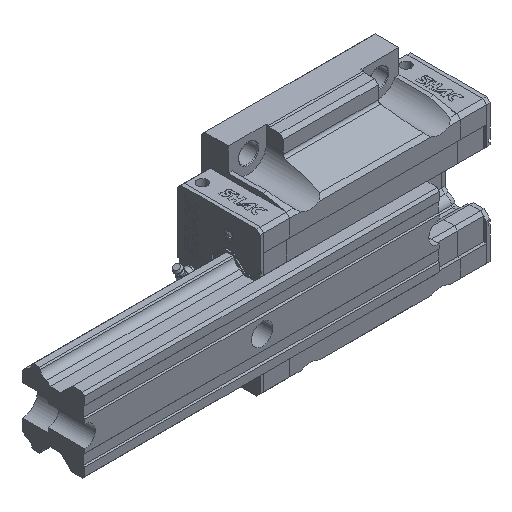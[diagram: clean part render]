
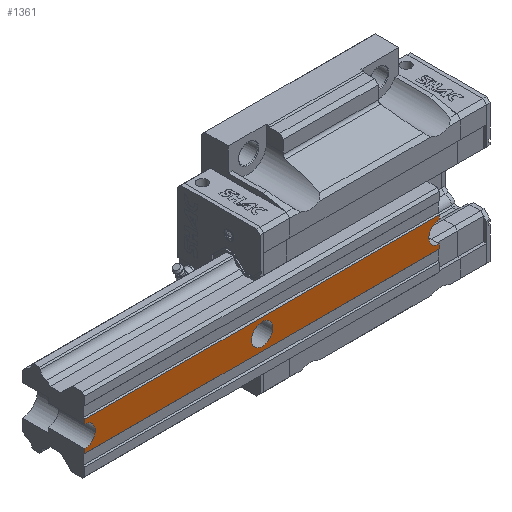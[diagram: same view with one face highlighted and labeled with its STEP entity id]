
A CAD part, isometric view. The second image highlights one B-rep face of the part: STEP entity #1361.
In plain terms, the highlighted planar face has unit normal (0, -1, 0).
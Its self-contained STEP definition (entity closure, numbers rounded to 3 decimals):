
#1361 = ADVANCED_FACE( '', ( #2830, #2831 ), #2832, .F. );
#2830 = FACE_BOUND( '', #4475, .T. );
#2831 = FACE_OUTER_BOUND( '', #4476, .T. );
#2832 = PLANE( '', #4477 );
#4475 = EDGE_LOOP( '', ( #8047 ) );
#4476 = EDGE_LOOP( '', ( #8048, #8049, #8050, #8051, #8052, #8053, #8054, #8055 ) );
#4477 = AXIS2_PLACEMENT_3D( '', #8056, #8057, #8058 );
#8047 = ORIENTED_EDGE( '', *, *, #11313, .F. );
#8048 = ORIENTED_EDGE( '', *, *, #10004, .F. );
#8049 = ORIENTED_EDGE( '', *, *, #11314, .F. );
#8050 = ORIENTED_EDGE( '', *, *, #10270, .F. );
#8051 = ORIENTED_EDGE( '', *, *, #11026, .F. );
#8052 = ORIENTED_EDGE( '', *, *, #10734, .T. );
#8053 = ORIENTED_EDGE( '', *, *, #11143, .T. );
#8054 = ORIENTED_EDGE( '', *, *, #10184, .F. );
#8055 = ORIENTED_EDGE( '', *, *, #11315, .T. );
#8056 = CARTESIAN_POINT( '', ( 150., 0., 29.5 ) );
#8057 = DIRECTION( '', ( 0., 1., 0. ) );
#8058 = DIRECTION( '', ( 0., 0., 1. ) );
#10004 = EDGE_CURVE( '', #11964, #11960, #11966, .T. );
#10184 = EDGE_CURVE( '', #12279, #12274, #12281, .T. );
#10270 = EDGE_CURVE( '', #12427, #12428, #12429, .T. );
#10734 = EDGE_CURVE( '', #13197, #13195, #13198, .T. );
#11026 = EDGE_CURVE( '', #13197, #12427, #13623, .T. );
#11143 = EDGE_CURVE( '', #13195, #12274, #13779, .T. );
#11313 = EDGE_CURVE( '', #14001, #14001, #14002, .T. );
#11314 = EDGE_CURVE( '', #12428, #11964, #14003, .T. );
#11315 = EDGE_CURVE( '', #12279, #11960, #14004, .T. );
#11960 = VERTEX_POINT( '', #14809 );
#11964 = VERTEX_POINT( '', #14815 );
#11966 = LINE( '', #14818, #14819 );
#12274 = VERTEX_POINT( '', #15252 );
#12279 = VERTEX_POINT( '', #15258 );
#12281 = CIRCLE( '', #15261, 9. );
#12427 = VERTEX_POINT( '', #15478 );
#12428 = VERTEX_POINT( '', #15479 );
#12429 = CIRCLE( '', #15480, 9. );
#13195 = VERTEX_POINT( '', #16607 );
#13197 = VERTEX_POINT( '', #16610 );
#13198 = LINE( '', #16611, #16612 );
#13623 = LINE( '', #17242, #17243 );
#13779 = LINE( '', #17474, #17475 );
#14001 = VERTEX_POINT( '', #17798 );
#14002 = CIRCLE( '', #17799, 9. );
#14003 = LINE( '', #17800, #17801 );
#14004 = LINE( '', #17802, #17803 );
#14809 = CARTESIAN_POINT( '', ( -150., 0., -12.5 ) );
#14815 = CARTESIAN_POINT( '', ( 150., 0., -12.5 ) );
#14818 = CARTESIAN_POINT( '', ( 150., 0., -12.5 ) );
#14819 = VECTOR( '', #18628, 1000. );
#15252 = CARTESIAN_POINT( '', ( -150., 0., 9. ) );
#15258 = CARTESIAN_POINT( '', ( -150., 0., -9. ) );
#15261 = AXIS2_PLACEMENT_3D( '', #18816, #18817, #18818 );
#15478 = CARTESIAN_POINT( '', ( 150., 0., 9. ) );
#15479 = CARTESIAN_POINT( '', ( 150., 0., -9. ) );
#15480 = AXIS2_PLACEMENT_3D( '', #18900, #18901, #18902 );
#16607 = CARTESIAN_POINT( '', ( -150., 0., 12.5 ) );
#16610 = CARTESIAN_POINT( '', ( 150., 0., 12.5 ) );
#16611 = CARTESIAN_POINT( '', ( 150., 0., 12.5 ) );
#16612 = VECTOR( '', #19404, 1000. );
#17242 = CARTESIAN_POINT( '', ( 150., 0., 29.5 ) );
#17243 = VECTOR( '', #19668, 1000. );
#17474 = CARTESIAN_POINT( '', ( -150., 0., 29.5 ) );
#17475 = VECTOR( '', #19784, 1000. );
#17798 = CARTESIAN_POINT( '', ( 0., 0., -9. ) );
#17799 = AXIS2_PLACEMENT_3D( '', #19942, #19943, #19944 );
#17800 = CARTESIAN_POINT( '', ( 150., 0., 29.5 ) );
#17801 = VECTOR( '', #19945, 1000. );
#17802 = CARTESIAN_POINT( '', ( -150., 0., 29.5 ) );
#17803 = VECTOR( '', #19946, 1000. );
#18628 = DIRECTION( '', ( -1., 0., 0. ) );
#18816 = CARTESIAN_POINT( '', ( -150., 0., 0. ) );
#18817 = DIRECTION( '', ( 0., -1., 0. ) );
#18818 = DIRECTION( '', ( 0., 0., -1. ) );
#18900 = CARTESIAN_POINT( '', ( 150., 0., 0. ) );
#18901 = DIRECTION( '', ( 0., -1., 0. ) );
#18902 = DIRECTION( '', ( 0., 0., -1. ) );
#19404 = DIRECTION( '', ( -1., 0., 0. ) );
#19668 = DIRECTION( '', ( 0., 0., -1. ) );
#19784 = DIRECTION( '', ( 0., 0., -1. ) );
#19942 = CARTESIAN_POINT( '', ( 0., 0., 0. ) );
#19943 = DIRECTION( '', ( 0., -1., 0. ) );
#19944 = DIRECTION( '', ( 0., 0., -1. ) );
#19945 = DIRECTION( '', ( 0., 0., -1. ) );
#19946 = DIRECTION( '', ( 0., 0., -1. ) );
